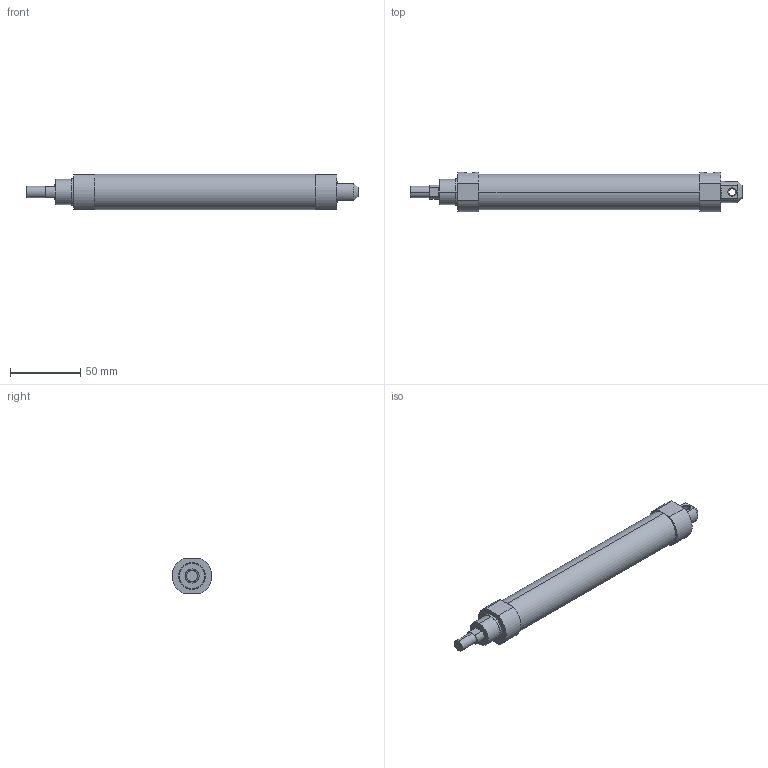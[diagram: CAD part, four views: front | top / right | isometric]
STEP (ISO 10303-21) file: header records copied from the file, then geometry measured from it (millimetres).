
FILE_DESCRIPTION (( 'STEP AP203' ), '1' );
FILE_NAME ('J#2-20-125-C.STEP', '2016-03-08T07:03:44', ( '' ), ( '' ), 'SwSTEP 2.0', 'SolidWorks 2014', '' );
FILE_SCHEMA (( 'CONFIG_CONTROL_DESIGN' ));
Length unit declared in the file: millimetre
Products named in the file (1): J#2-20-125-C
Bounding box: 236 x 27.95 x 25 mm (x, y, z)
Volume: 99766.7 mm3; surface area: 19081.9 mm2
Topology: 1 solids, 1 shells, 56 faces, 124 edges, 76 vertices
Faces by surface type: plane 28, cylinder 22, cone 6
Entity records: 1751 total; most frequent: CARTESIAN_POINT 401, DIRECTION 284, ORIENTED_EDGE 248, EDGE_CURVE 124, AXIS2_PLACEMENT_3D 111, VERTEX_POINT 76, EDGE_LOOP 64, LINE 62
